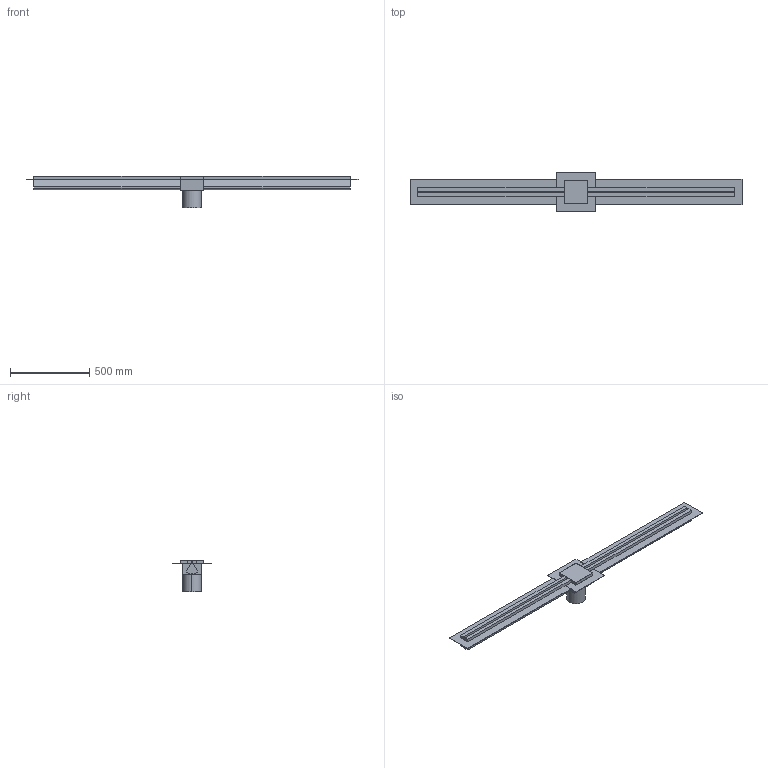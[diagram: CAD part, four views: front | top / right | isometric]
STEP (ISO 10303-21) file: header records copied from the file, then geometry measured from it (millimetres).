
FILE_DESCRIPTION(/* description */ (''),/* implementation_level */ '2;1');
FILE_NAME(/* name */ 'E:\Workspace\resitec\Packs\Kategorie\Entwässerungsrinne\STP\RS772K.65.150Schlitzrinne mit Rand 25mm AuslaufkastenM151mm-4xKR.s.ipt.stp',/* time_stamp */ '2020-10-04T20:57:13+02:00',/* author */ ('ndmes'),/* organization */ (''),/* preprocessor_version */ 'ST-DEVELOPER v18.1',/* originating_system */ 'Autodesk Inventor 2021',/* authorisation */ '');
FILE_SCHEMA (('AUTOMOTIVE_DESIGN { 1 0 10303 214 3 1 1 }'));
Length unit declared in the file: millimetre
Products named in the file (1): RS772K.65.150Schlitzrinne mit Rand 25mm AuslaufkastenM151mm-4xKR.s
Bounding box: 2100 x 251 x 200 mm (x, y, z)
Volume: 11426650.6 mm3; surface area: 1674211.5 mm2
Topology: 11 solids, 11 shells, 89 faces, 201 edges, 134 vertices
Faces by surface type: plane 87, cylinder 2
Entity records: 2478 total; most frequent: CARTESIAN_POINT 425, ORIENTED_EDGE 402, DIRECTION 385, EDGE_CURVE 201, LINE 197, VECTOR 197, VERTEX_POINT 134, AXIS2_PLACEMENT_3D 94
